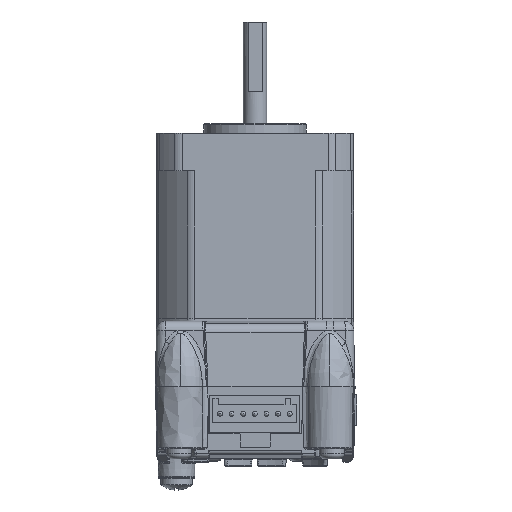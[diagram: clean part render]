
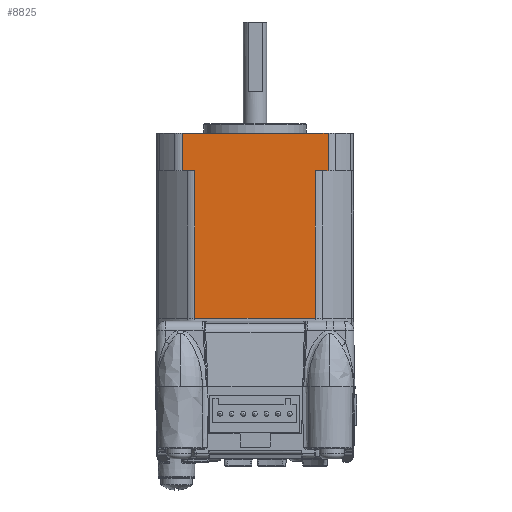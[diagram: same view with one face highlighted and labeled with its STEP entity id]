
A CAD part, top view. The second image highlights one B-rep face of the part: STEP entity #8825.
In plain terms, the highlighted planar face has unit normal (0, 0, 1).
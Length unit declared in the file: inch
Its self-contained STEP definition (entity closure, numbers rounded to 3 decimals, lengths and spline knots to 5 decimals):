
#3017=CARTESIAN_POINT('',(-1.4692,2.80077,0.77812));
#3018=VERTEX_POINT('',#3017);
#3019=CARTESIAN_POINT('',(-1.36283,2.80077,0.77812));
#3020=VERTEX_POINT('',#3019);
#3021=CARTESIAN_POINT('',(-0.22532,2.80077,0.77812));
#3022=DIRECTION('',(1.,0.,0.));
#3023=VECTOR('',#3022,1.);
#3024=LINE('',#3021,#3023);
#3025=EDGE_CURVE('',#3018,#3020,#3024,.T.);
#3219=CARTESIAN_POINT('',(-1.4692,3.11777,0.77812));
#3220=VERTEX_POINT('',#3219);
#3221=CARTESIAN_POINT('',(-0.23713,3.11777,0.77812));
#3222=VERTEX_POINT('',#3221);
#3223=CARTESIAN_POINT('',(-0.22532,3.11777,0.77812));
#3224=DIRECTION('',(1.,0.,0.));
#3225=VECTOR('',#3224,1.);
#3226=LINE('',#3223,#3225);
#3227=EDGE_CURVE('',#3220,#3222,#3226,.T.);
#3389=CARTESIAN_POINT('',(-0.23713,2.80077,0.77812));
#3390=VERTEX_POINT('',#3389);
#3398=CARTESIAN_POINT('',(-0.34365,2.80077,0.77812));
#3399=VERTEX_POINT('',#3398);
#3400=CARTESIAN_POINT('',(-0.22532,2.80077,0.77812));
#3401=DIRECTION('',(1.,0.,0.));
#3402=VECTOR('',#3401,1.);
#3403=LINE('',#3400,#3402);
#3404=EDGE_CURVE('',#3399,#3390,#3403,.T.);
#3471=CARTESIAN_POINT('',(-1.4692,3.11777,0.77812));
#3472=DIRECTION('',(0.,1.,0.));
#3473=VECTOR('',#3472,1.);
#3474=LINE('',#3471,#3473);
#3475=EDGE_CURVE('',#3018,#3220,#3474,.T.);
#3630=CARTESIAN_POINT('',(-0.23713,3.11777,0.77812));
#3631=DIRECTION('',(0.,-1.,0.));
#3632=VECTOR('',#3631,1.);
#3633=LINE('',#3630,#3632);
#3634=EDGE_CURVE('',#3222,#3390,#3633,.T.);
#8275=CARTESIAN_POINT('',(-0.34365,1.55474,0.77812));
#8276=VERTEX_POINT('',#8275);
#8277=CARTESIAN_POINT('',(-0.34365,1.55479,0.77812));
#8278=CARTESIAN_POINT('',(-0.34365,2.80077,0.77812));
#8279=B_SPLINE_CURVE_WITH_KNOTS('',1,(#8277,#8278),.UNSPECIFIED.,.F.,.F.,(2,2),(-0.02042,1.22432),.UNSPECIFIED.);
#8280=EDGE_CURVE('',#8276,#3399,#8279,.T.);
#8798=ORIENTED_EDGE('',*,*,#3404,.T.);
#8799=ORIENTED_EDGE('',*,*,#3634,.F.);
#8800=ORIENTED_EDGE('',*,*,#3227,.F.);
#8801=ORIENTED_EDGE('',*,*,#3475,.F.);
#8802=ORIENTED_EDGE('',*,*,#3025,.T.);
#8803=CARTESIAN_POINT('',(-1.36268,1.55474,0.77812));
#8804=VERTEX_POINT('',#8803);
#8805=CARTESIAN_POINT('',(-1.36283,1.7028,0.77812));
#8806=DIRECTION('',(0.,1.,0.));
#8807=VECTOR('',#8806,1.);
#8808=LINE('',#8805,#8807);
#8809=EDGE_CURVE('',#8804,#3020,#8808,.T.);
#8810=ORIENTED_EDGE('',*,*,#8809,.F.);
#8811=CARTESIAN_POINT('',(-0.91976,1.55474,0.77812));
#8812=DIRECTION('',(-1.,0.,0.));
#8813=VECTOR('',#8812,1.);
#8814=LINE('',#8811,#8813);
#8815=EDGE_CURVE('',#8276,#8804,#8814,.T.);
#8816=ORIENTED_EDGE('',*,*,#8815,.F.);
#8817=ORIENTED_EDGE('',*,*,#8280,.T.);
#8818=EDGE_LOOP('',(#8798,#8799,#8800,#8801,#8802,#8810,#8816,#8817));
#8819=FACE_OUTER_BOUND('',#8818,.T.);
#8820=CARTESIAN_POINT('',(-0.34365,1.57521,0.77812));
#8821=DIRECTION('',(0.,0.,1.));
#8822=DIRECTION('',(1.,0.,0.));
#8823=AXIS2_PLACEMENT_3D('',#8820,#8821,#8822);
#8824=PLANE('',#8823);
#8825=ADVANCED_FACE('',(#8819),#8824,.T.);
